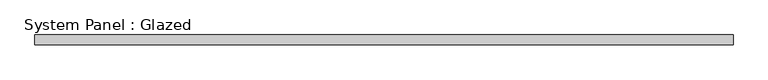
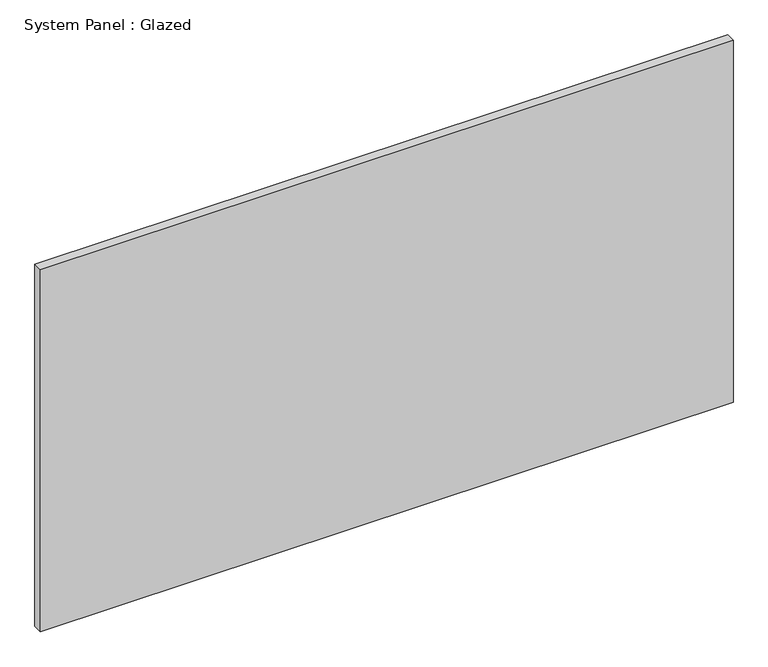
"""IFC4 building model written with IfcOpenShell, lengths in millimetres: plate geometry, System Panel : Glazed."""

from ifc_helpers import new_model, si_unit, origin, origin_with_axes, place, context, project, spatial, polyline, outline, extrude, source, transform, mapped, element, save


def system_panel_glazed_6f7ca1da(model_context):
    return source(origin(), model_context, "Body", "SweptSolid", [
        extrude(outline(polyline([(904.9999998, 24.5), (-904.9999998, 24.5), (-904.9999998, 49.5), (904.9999998, 49.5), (904.9999998, 24.5)])), origin_with_axes(), (0.0, 0.0, 1.0), 1000.0),
    ])


if __name__ == "__main__":
    model = new_model("IFC4")
    model_context = context("Model", 3, world=origin())
    ifc_project = project(units=[si_unit("LENGTHUNIT", "METRE", prefix="MILLI")], contexts=[model_context])
    site = spatial("IfcSite", under=ifc_project)
    building = spatial("IfcBuilding", under=site)
    placement = place(None, origin())
    system_panel_glazed_shape = system_panel_glazed_6f7ca1da(model_context)
    element("IfcPlate", 1, ObjectType="System Panel : Glazed", at=placement, inside=building, context=model_context, shape_type="MappedRepresentation", body=[
        mapped(system_panel_glazed_shape, transform((0.0, 0.0, 0.0), x_axis=(1.0, 0.0, 0.0), y_axis=(0.0, 1.0, 0.0), z_axis=(0.0, 0.0, 1.0))),
    ])
    save(model, "model.ifc")
